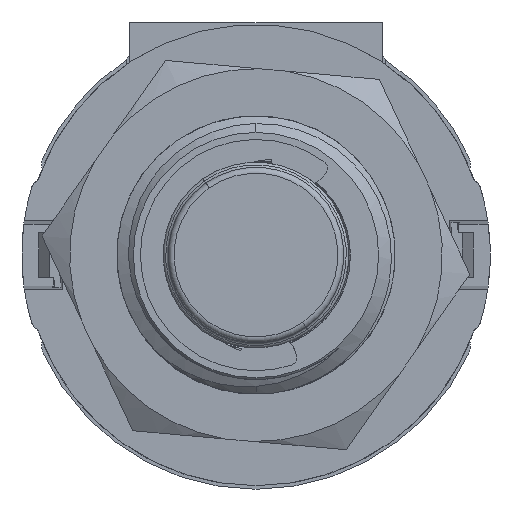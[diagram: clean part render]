
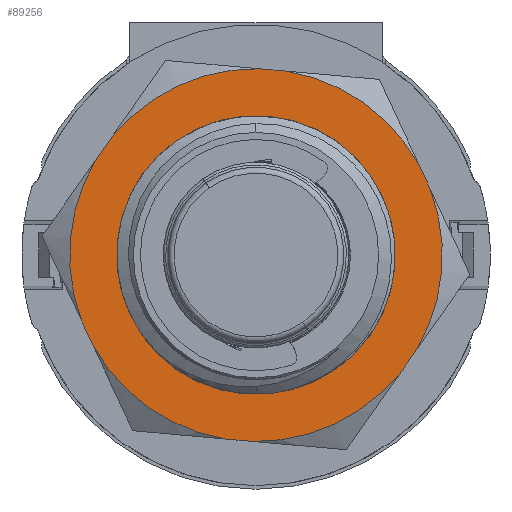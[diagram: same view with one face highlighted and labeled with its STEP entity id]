
A CAD part, front view. The second image highlights one B-rep face of the part: STEP entity #89256.
In plain terms, the highlighted planar face has unit normal (0, -1, 0).
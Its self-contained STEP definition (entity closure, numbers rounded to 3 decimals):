
#89221 = VERTEX_POINT('',#89222);
#89222 = CARTESIAN_POINT('',(3.897,-6.083,
    -2.738));
#89228 = EDGE_CURVE('',#89221,#89229,#89231,.T.);
#89229 = VERTEX_POINT('',#89230);
#89230 = CARTESIAN_POINT('',(-3.897,-6.083,
    2.738));
#89231 = CIRCLE('',#89232,4.763);
#89232 = AXIS2_PLACEMENT_3D('',#89233,#89234,#89235);
#89233 = CARTESIAN_POINT('',(0.,-6.083,0.));
#89234 = DIRECTION('',(0.,1.,-0.));
#89235 = DIRECTION('',(-0.818,0.,0.575));
#89256 = ADVANCED_FACE('',(#89257,#89267),#89371,.T.);
#89257 = FACE_BOUND('',#89258,.T.);
#89258 = EDGE_LOOP('',(#89259,#89260));
#89259 = ORIENTED_EDGE('',*,*,#89228,.T.);
#89260 = ORIENTED_EDGE('',*,*,#89261,.T.);
#89261 = EDGE_CURVE('',#89229,#89221,#89262,.T.);
#89262 = CIRCLE('',#89263,4.763);
#89263 = AXIS2_PLACEMENT_3D('',#89264,#89265,#89266);
#89264 = CARTESIAN_POINT('',(0.,-6.083,0.));
#89265 = DIRECTION('',(0.,1.,-0.));
#89266 = DIRECTION('',(-0.818,0.,0.575));
#89267 = FACE_BOUND('',#89268,.T.);
#89268 = EDGE_LOOP('',(#89269,#89279,#89288,#89296,#89305,#89313,#89322,
    #89330,#89339,#89347,#89356,#89364));
#89269 = ORIENTED_EDGE('',*,*,#89270,.F.);
#89270 = EDGE_CURVE('',#89271,#89273,#89275,.T.);
#89271 = VERTEX_POINT('',#89272);
#89272 = CARTESIAN_POINT('',(5.464,-6.083,
    -3.268));
#89273 = VERTEX_POINT('',#89274);
#89274 = CARTESIAN_POINT('',(4.927,-6.083,
    -4.032));
#89275 = LINE('',#89276,#89277);
#89276 = CARTESIAN_POINT('',(7.303,-6.083,
    -0.65));
#89277 = VECTOR('',#89278,1.);
#89278 = DIRECTION('',(-0.575,0.,-0.818));
#89279 = ORIENTED_EDGE('',*,*,#89280,.T.);
#89280 = EDGE_CURVE('',#89271,#89281,#89283,.T.);
#89281 = VERTEX_POINT('',#89282);
#89282 = CARTESIAN_POINT('',(5.956,-6.083,
    2.251));
#89283 = CIRCLE('',#89284,6.367);
#89284 = AXIS2_PLACEMENT_3D('',#89285,#89286,#89287);
#89285 = CARTESIAN_POINT('',(0.,-6.083,0.));
#89286 = DIRECTION('',(0.,-1.,0.));
#89287 = DIRECTION('',(0.818,0.,-0.575));
#89288 = ORIENTED_EDGE('',*,*,#89289,.T.);
#89289 = EDGE_CURVE('',#89281,#89290,#89292,.T.);
#89290 = VERTEX_POINT('',#89291);
#89291 = CARTESIAN_POINT('',(5.563,-6.083,
    3.098));
#89292 = LINE('',#89293,#89294);
#89293 = CARTESIAN_POINT('',(7.303,-6.083,
    -0.65));
#89294 = VECTOR('',#89295,1.);
#89295 = DIRECTION('',(-0.421,0.,0.907));
#89296 = ORIENTED_EDGE('',*,*,#89297,.T.);
#89297 = EDGE_CURVE('',#89290,#89298,#89300,.T.);
#89298 = VERTEX_POINT('',#89299);
#89299 = CARTESIAN_POINT('',(1.028,-6.083,
    6.284));
#89300 = CIRCLE('',#89301,6.367);
#89301 = AXIS2_PLACEMENT_3D('',#89302,#89303,#89304);
#89302 = CARTESIAN_POINT('',(0.,-6.083,0.));
#89303 = DIRECTION('',(0.,-1.,0.));
#89304 = DIRECTION('',(0.818,0.,-0.575));
#89305 = ORIENTED_EDGE('',*,*,#89306,.T.);
#89306 = EDGE_CURVE('',#89298,#89307,#89309,.T.);
#89307 = VERTEX_POINT('',#89308);
#89308 = CARTESIAN_POINT('',(0.098,-6.083,
    6.366));
#89309 = LINE('',#89310,#89311);
#89310 = CARTESIAN_POINT('',(4.215,-6.083,
    6.));
#89311 = VECTOR('',#89312,1.);
#89312 = DIRECTION('',(-0.996,0.,0.089));
#89313 = ORIENTED_EDGE('',*,*,#89314,.T.);
#89314 = EDGE_CURVE('',#89307,#89315,#89317,.T.);
#89315 = VERTEX_POINT('',#89316);
#89316 = CARTESIAN_POINT('',(-4.927,-6.083,
    4.032));
#89317 = CIRCLE('',#89318,6.367);
#89318 = AXIS2_PLACEMENT_3D('',#89319,#89320,#89321);
#89319 = CARTESIAN_POINT('',(0.,-6.083,0.));
#89320 = DIRECTION('',(0.,-1.,0.));
#89321 = DIRECTION('',(0.818,0.,-0.575));
#89322 = ORIENTED_EDGE('',*,*,#89323,.F.);
#89323 = EDGE_CURVE('',#89324,#89315,#89326,.T.);
#89324 = VERTEX_POINT('',#89325);
#89325 = CARTESIAN_POINT('',(-5.464,-6.083,
    3.268));
#89326 = LINE('',#89327,#89328);
#89327 = CARTESIAN_POINT('',(-7.303,-6.083,
    0.65));
#89328 = VECTOR('',#89329,1.);
#89329 = DIRECTION('',(0.575,0.,0.818));
#89330 = ORIENTED_EDGE('',*,*,#89331,.T.);
#89331 = EDGE_CURVE('',#89324,#89332,#89334,.T.);
#89332 = VERTEX_POINT('',#89333);
#89333 = CARTESIAN_POINT('',(-5.956,-6.083,
    -2.251));
#89334 = CIRCLE('',#89335,6.367);
#89335 = AXIS2_PLACEMENT_3D('',#89336,#89337,#89338);
#89336 = CARTESIAN_POINT('',(0.,-6.083,0.));
#89337 = DIRECTION('',(0.,-1.,0.));
#89338 = DIRECTION('',(0.818,0.,-0.575));
#89339 = ORIENTED_EDGE('',*,*,#89340,.F.);
#89340 = EDGE_CURVE('',#89341,#89332,#89343,.T.);
#89341 = VERTEX_POINT('',#89342);
#89342 = CARTESIAN_POINT('',(-5.563,-6.083,
    -3.098));
#89343 = LINE('',#89344,#89345);
#89344 = CARTESIAN_POINT('',(-4.215,-6.083,
    -6.));
#89345 = VECTOR('',#89346,1.);
#89346 = DIRECTION('',(-0.421,0.,0.907));
#89347 = ORIENTED_EDGE('',*,*,#89348,.T.);
#89348 = EDGE_CURVE('',#89341,#89349,#89351,.T.);
#89349 = VERTEX_POINT('',#89350);
#89350 = CARTESIAN_POINT('',(-1.028,-6.083,
    -6.284));
#89351 = CIRCLE('',#89352,6.367);
#89352 = AXIS2_PLACEMENT_3D('',#89353,#89354,#89355);
#89353 = CARTESIAN_POINT('',(0.,-6.083,0.));
#89354 = DIRECTION('',(0.,-1.,0.));
#89355 = DIRECTION('',(0.818,0.,-0.575));
#89356 = ORIENTED_EDGE('',*,*,#89357,.T.);
#89357 = EDGE_CURVE('',#89349,#89358,#89360,.T.);
#89358 = VERTEX_POINT('',#89359);
#89359 = CARTESIAN_POINT('',(-0.098,-6.083,
    -6.366));
#89360 = LINE('',#89361,#89362);
#89361 = CARTESIAN_POINT('',(-4.215,-6.083,
    -6.));
#89362 = VECTOR('',#89363,1.);
#89363 = DIRECTION('',(0.996,0.,-0.089));
#89364 = ORIENTED_EDGE('',*,*,#89365,.T.);
#89365 = EDGE_CURVE('',#89358,#89273,#89366,.T.);
#89366 = CIRCLE('',#89367,6.367);
#89367 = AXIS2_PLACEMENT_3D('',#89368,#89369,#89370);
#89368 = CARTESIAN_POINT('',(0.,-6.083,0.));
#89369 = DIRECTION('',(0.,-1.,0.));
#89370 = DIRECTION('',(0.818,0.,-0.575));
#89371 = PLANE('',#89372);
#89372 = AXIS2_PLACEMENT_3D('',#89373,#89374,#89375);
#89373 = CARTESIAN_POINT('',(10.392,-6.083,
    -7.301));
#89374 = DIRECTION('',(0.,-1.,0.));
#89375 = DIRECTION('',(0.818,0.,-0.575));
